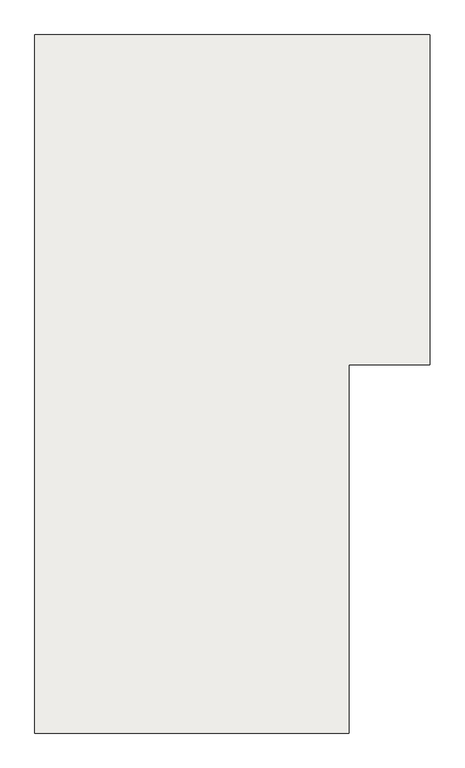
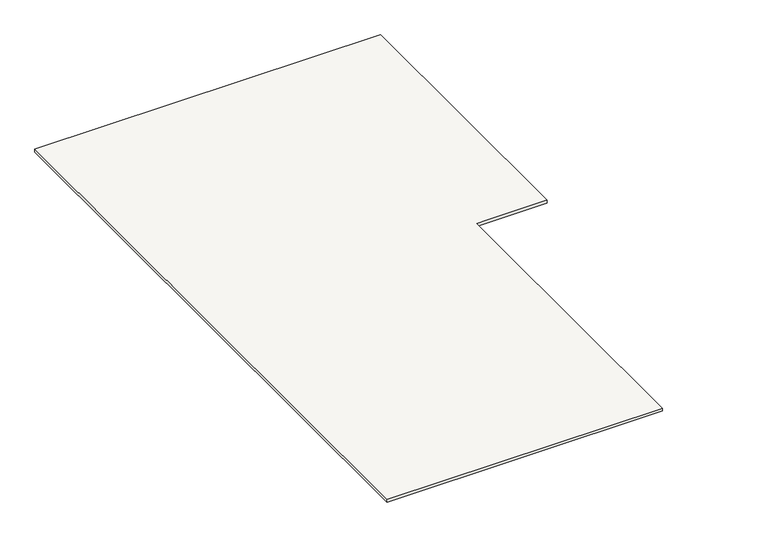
"""IFC4 building model written with IfcOpenShell, lengths in millimetres: slab geometry, ESTANDAR."""

from ifc_helpers import new_model, si_unit, frame, origin, place, context, project, spatial, polyline, outline, extrude, source, transform, mapped, element, save


def slab_83742045(model_context):
    return source(origin(), model_context, "Body", "SweptSolid", [
        extrude(outline(polyline([(4604.7173693, 7445.2304035), (3489.7173693, 7445.2304035), (3489.7173693, 9920.2304035), (4890.7173693, 9920.2304035), (4890.7173693, 8750.2304035), (4604.7173693, 8750.2304035), (4604.7173693, 8615.2304035), (4604.7173693, 7445.2304035)])), frame((0.0, 0.0, 1729.6052632), z_axis=(0.0, 0.0, 1.0), x_axis=(1.0, 0.0, 0.0)), (0.0, 0.0, 1.0), 12.5),
    ])


if __name__ == "__main__":
    model = new_model("IFC4")
    model_context = context("Model", 3, world=origin())
    ifc_project = project(units=[si_unit("LENGTHUNIT", "METRE", prefix="MILLI")], contexts=[model_context])
    site = spatial("IfcSite", under=ifc_project)
    building = spatial("IfcBuilding", under=site)
    placement = place(None, origin())
    slab_shape = slab_83742045(model_context)
    element("IfcSlab", 1, ObjectType="ESTANDAR", at=placement, inside=building, context=model_context, shape_type="MappedRepresentation", body=[
        mapped(slab_shape, transform((0.0, 0.0, 0.0), x_axis=(1.0, 0.0, 0.0), y_axis=(0.0, 1.0, 0.0), z_axis=(0.0, 0.0, 1.0))),
    ])
    save(model, "model.ifc")
